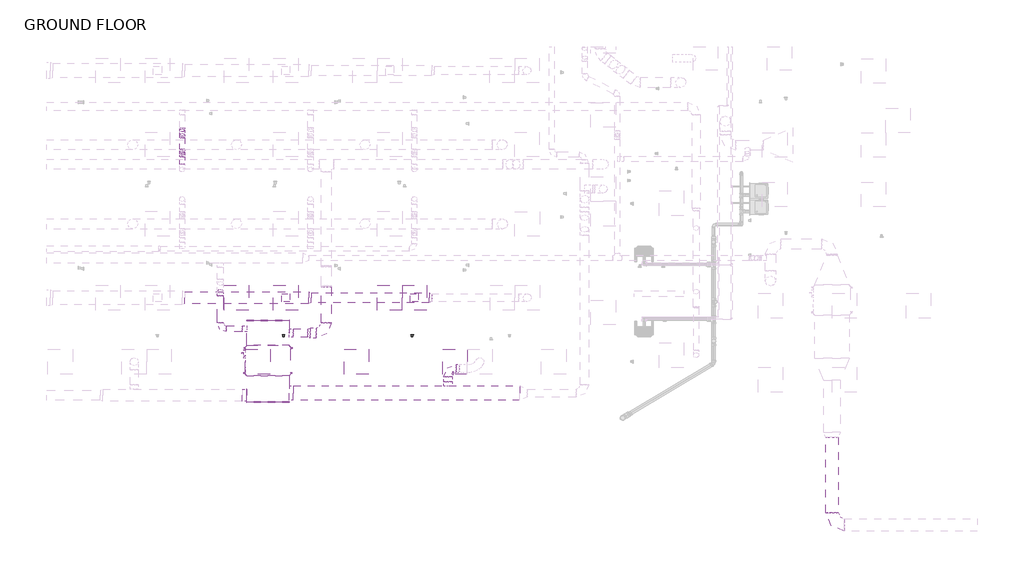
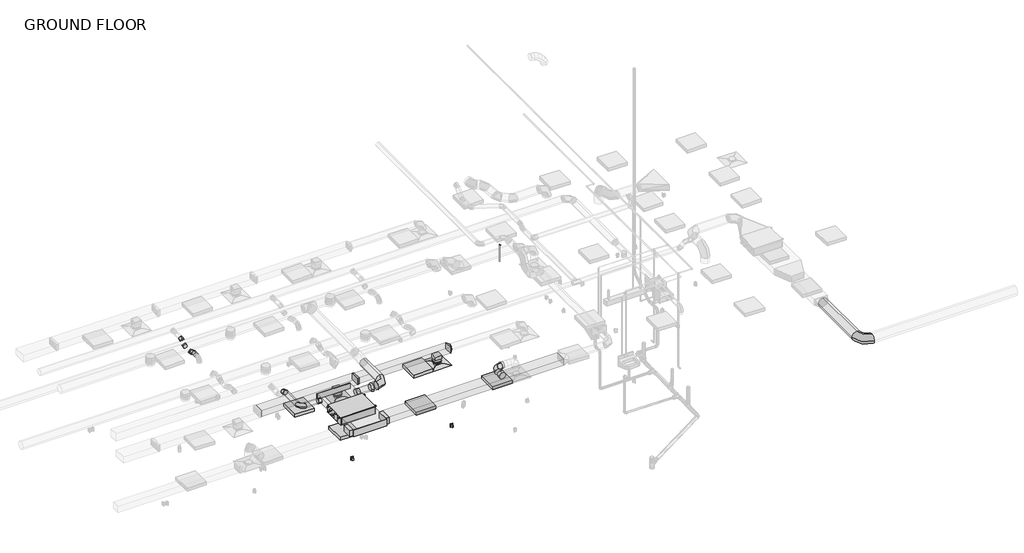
# One storey, part 4 of 21: 23 duct fittings, 19 duct segments, 5 light fixtures, 2 air terminals, 2 pipe segments, 2 switching devices, 1 pipe fitting, 1 proxy.
"""IFC4 building model written with IfcOpenShell, lengths in millimetres."""

from ifc_helpers import new_model, si_unit, point, frame, frame_2d, origin, place, context, project, spatial, polyline, circle_curve, trimmed, segment, composite_curve, outline, extrude, transform, mapped, element, save
from components import air_terminal_e9020785, mechanical_equipment_d42a0ae8, rectangular_endcap_standard_76476d20, rectangular_endcap_standard_db7dad01, rectangular_takeoff_standard_806da19c, rectangular_takeoff_standard_78a7ba75, rectangular_takeoff_standard_d07ea574, rectangular_transition_angle_45_degree_1d311e81, rectangular_to_round_transition_angle_45_degree_e9430680, rectangular_to_round_transition_angle_45_degree_5a025447, round_elbow_1_d_a253342a, round_elbow_1_d_b37ad80b, round_elbow_1_d_6fec3262, round_elbow_1_d_281bc45b, round_elbow_1_d_9a27e954, round_elbow_1_d_538d8ec8, round_takeoff_standard_d3b0d0f9, round_takeoff_standard_1127d77f, round_takeoff_standard_bb6ed057, round_transition_angle_45_degree_6c335ea7, troffer_corner_insert_2x2_3lamp_e67c7f8f, elbow_generic_standard_a088f956, duplex_receptacle_countertop_10251bba

model = new_model("IFC4")

# Units and contexts
model_context = context("Model", 3, world=origin())
ifc_project = project(units=[si_unit("LENGTHUNIT", "METRE", prefix="MILLI")], contexts=[model_context])

# Site, building, storey
site = spatial("IfcSite", under=ifc_project)
building = spatial("IfcBuilding", under=site)
storey = spatial("IfcBuildingStorey", under=building, Name="GROUND FLOOR", Elevation=30480.0)

# Air terminals
placement = place(None, origin())
air_terminal_shape = air_terminal_e9020785(model_context)
element("IfcAirTerminal", 1, ObjectType="Supply Diffuser - Rectangular Face Round Neck - Hosted : 24\"x24\" Face 8\" Neck - Hosted", at=placement, inside=storey, context=model_context, shape_type="MappedRepresentation", body=[
    mapped(air_terminal_shape, transform((2372.6795393, -4228.1054995, 33223.2), x_axis=(0.0, -1.0, 0.0), y_axis=(-1.0, 0.0, 0.0), z_axis=(0.0, 0.0, -1.0))),
])
element("IfcAirTerminal", 2, ObjectType="Supply Diffuser - Rectangular Face Round Neck - Hosted : 24\"x24\" Face 8\" Neck - Hosted", at=placement, inside=storey, context=model_context, shape_type="MappedRepresentation", body=[
    mapped(air_terminal_shape, transform((5547.6681472, -4228.1054995, 33223.2), x_axis=(0.0, -1.0, 0.0), y_axis=(-1.0, 0.0, 0.0), z_axis=(0.0, 0.0, -1.0))),
])

# Proxy
mechanical_equipment_shape = mechanical_equipment_d42a0ae8(model_context)
element("IfcBuildingElementProxy", 3, Name="PEFY-P-NMAU-E_Medium_Static_Ducted : PEFY-P30NMAU-E", ObjectType="PEFY-P-NMAU-E_Medium_Static_Ducted : PEFY-P30NMAU-E", at=placement, inside=storey, context=model_context, shape_type="MappedRepresentation", body=[
    mapped(mechanical_equipment_shape, transform((1920.9522105, -5724.0600038, 33731.2), x_axis=(-1.0, 0.0, 0.0), y_axis=(0.0, -1.0, 0.0), z_axis=(0.0, 0.0, 1.0))),
])

# Duct fittings
rectangular_endcap_standard_shape = rectangular_endcap_standard_76476d20(model_context)
element("IfcDuctFitting", 4, ObjectType="Rectangular Endcap : Standard", at=placement, inside=storey, context=model_context, shape_type="MappedRepresentation", body=[
    mapped(rectangular_endcap_standard_shape, transform((1930.9644534, -4796.9600038, 33890.74375), x_axis=(0.0, 1.0, 0.0), y_axis=(-1.0, 0.0, 0.0), z_axis=(0.0, 0.0, 1.0))),
])
rectangular_endcap_standard_2_shape = rectangular_endcap_standard_db7dad01(model_context)
element("IfcDuctFitting", 5, ObjectType="Rectangular Endcap : Standard", at=placement, inside=storey, context=model_context, shape_type="MappedRepresentation", body=[
    mapped(rectangular_endcap_standard_2_shape, transform((1930.9644534, -6797.459162, 33877.25), x_axis=(0.0, -1.0, 0.0), y_axis=(0.0, 0.0, -1.0000000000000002), z_axis=(1.0000000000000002, 0.0, 0.0))),
])
rectangular_takeoff_standard_shape = rectangular_takeoff_standard_806da19c(model_context)
element("IfcDuctFitting", 6, ObjectType="Rectangular Takeoff : Standard", at=placement, inside=storey, context=model_context, shape_type="MappedRepresentation", body=[
    mapped(rectangular_takeoff_standard_shape, transform((2458.8082034, -6584.4850038, 33877.25), x_axis=(1.0, 0.0, 0.0), y_axis=(0.0, -1.0, 0.0), z_axis=(0.0, 0.0, -1.0))),
])
rectangular_takeoff_standard_2_shape = rectangular_takeoff_standard_78a7ba75(model_context)
element("IfcDuctFitting", 7, ObjectType="Rectangular Takeoff : Standard", at=placement, inside=storey, context=model_context, shape_type="MappedRepresentation", body=[
    mapped(rectangular_takeoff_standard_2_shape, transform((1403.1207034, -6635.2850038, 33877.25), x_axis=(-1.0, 0.0, 0.0), y_axis=(0.0, 1.0, 0.0), z_axis=(0.0, 0.0, -1.0))),
])
rectangular_takeoff_standard_3_shape = rectangular_takeoff_standard_d07ea574(model_context)
element("IfcDuctFitting", 8, ObjectType="Rectangular Takeoff : Standard", at=placement, inside=storey, context=model_context, shape_type="MappedRepresentation", body=[
    mapped(rectangular_takeoff_standard_3_shape, transform((5547.6681472, -4228.1054995, 33502.6), x_axis=(0.0, 0.0, -1.0), y_axis=(1.0, 0.0, 0.0), z_axis=(0.0, -1.0, 0.0))),
])
element("IfcDuctFitting", 9, ObjectType="Rectangular Takeoff : Standard", at=placement, inside=storey, context=model_context, shape_type="MappedRepresentation", body=[
    mapped(rectangular_takeoff_standard_3_shape, transform((2372.6795393, -4228.1054995, 33502.6), x_axis=(0.0, 0.0, -1.0), y_axis=(1.0, 0.0, 0.0), z_axis=(0.0, -1.0, 0.0))),
])
rectangular_transition_angle_45_degree_shape = rectangular_transition_angle_45_degree_1d311e81(model_context)
element("IfcDuctFitting", 10, ObjectType="Rectangular Transition - Angle : 45 Degree", at=placement, inside=storey, context=model_context, shape_type="MappedRepresentation", body=[
    mapped(rectangular_transition_angle_45_degree_shape, transform((2934.6545393, -4228.1054995, 33604.2), x_axis=(1.0, 0.0, 0.0), y_axis=(0.0, 1.0, 0.0), z_axis=(0.0, 0.0, 1.0))),
])
rectangular_to_round_transition_angle_45_degree_shape = rectangular_to_round_transition_angle_45_degree_e9430680(model_context)
element("IfcDuctFitting", 11, ObjectType="Rectangular to Round Transition - Angle : 45 Degree", at=placement, inside=storey, context=model_context, shape_type="MappedRepresentation", body=[
    mapped(rectangular_to_round_transition_angle_45_degree_shape, transform((5910.8124903, -4228.1054995, 33604.2), x_axis=(1.0, 0.0, 0.0), y_axis=(0.0, 1.0, 0.0), z_axis=(0.0, 0.0, 1.0))),
])
rectangular_to_round_transition_angle_45_degree_2_shape = rectangular_to_round_transition_angle_45_degree_5a025447(model_context)
element("IfcDuctFitting", 12, ObjectType="Rectangular to Round Transition - Angle : 45 Degree", at=placement, inside=storey, context=model_context, shape_type="MappedRepresentation", body=[
    mapped(rectangular_to_round_transition_angle_45_degree_2_shape, transform((5547.6681472, -4228.1054995, 33327.975), x_axis=(0.0, 0.0, -1.0), y_axis=(1.0, 0.0, 0.0), z_axis=(0.0, -1.0, 0.0))),
])
element("IfcDuctFitting", 13, ObjectType="Rectangular to Round Transition - Angle : 45 Degree", at=placement, inside=storey, context=model_context, shape_type="MappedRepresentation", body=[
    mapped(rectangular_to_round_transition_angle_45_degree_2_shape, transform((2372.6795393, -4228.1054995, 33327.975), x_axis=(0.0, 0.0, -1.0), y_axis=(1.0, 0.0, 0.0), z_axis=(0.0, -1.0, 0.0))),
])
round_elbow_1_d_shape = round_elbow_1_d_a253342a(model_context)
element("IfcDuctFitting", 14, ObjectType="Round Elbow : 1 D", at=placement, inside=storey, context=model_context, shape_type="MappedRepresentation", body=[
    mapped(round_elbow_1_d_shape, transform((6377.6154749, -5974.8850038, 33832.8), x_axis=(-1.0, 0.0, 0.0), y_axis=(0.0, -1.0, 0.0), z_axis=(0.0, 0.0, 1.0))),
])
round_elbow_1_d_2_shape = round_elbow_1_d_b37ad80b(model_context)
element("IfcDuctFitting", 15, ObjectType="Round Elbow : 1 D", at=placement, inside=storey, context=model_context, shape_type="MappedRepresentation", body=[
    mapped(round_elbow_1_d_2_shape, transform((752.8182219, -4998.2216457, 33890.74375), x_axis=(0.0, -1.0, 0.0), y_axis=(1.0, 0.0, 0.0), z_axis=(0.0, 0.0, 1.0))),
])
round_elbow_1_d_3_shape = round_elbow_1_d_6fec3262(model_context)
element("IfcDuctFitting", 16, ObjectType="Round Elbow : 1 D", at=placement, inside=storey, context=model_context, shape_type="MappedRepresentation", body=[
    mapped(round_elbow_1_d_3_shape, transform((3373.2082034, -5101.7600038, 33846.29375), x_axis=(1.0, 0.0, 0.0), y_axis=(0.0, 1.0, 0.0), z_axis=(0.0, 0.0, 1.0))),
])
round_elbow_1_d_4_shape = round_elbow_1_d_281bc45b(model_context)
element("IfcDuctFitting", 17, ObjectType="Round Elbow : 1 D", at=placement, inside=storey, context=model_context, shape_type="MappedRepresentation", body=[
    mapped(round_elbow_1_d_4_shape, transform((15866.7105962, -9838.464426, 33750.25), x_axis=(0.0, -1.0, 0.0), y_axis=(1.0, 0.0, 0.0), z_axis=(0.0, 0.0, 1.0))),
])
round_elbow_1_d_5_shape = round_elbow_1_d_9a27e954(model_context)
element("IfcDuctFitting", 18, ObjectType="Round Elbow : 1 D", at=placement, inside=storey, context=model_context, shape_type="MappedRepresentation", body=[
    mapped(round_elbow_1_d_5_shape, transform((752.8182219, -4118.4511555, 33890.74375), x_axis=(0.0, -0.707106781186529, 0.707106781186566), y_axis=(0.0, -0.707106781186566, -0.707106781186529), z_axis=(1.0, 0.0, 0.0))),
])
round_elbow_1_d_6_shape = round_elbow_1_d_538d8ec8(model_context)
element("IfcDuctFitting", 19, ObjectType="Round Elbow : 1 D", at=placement, inside=storey, context=model_context, shape_type="MappedRepresentation", body=[
    mapped(round_elbow_1_d_6_shape, transform((-189.5454607, -703.4357216, 33477.2), x_axis=(0.0, 1.0, 0.0), y_axis=(0.0, 0.0, -1.0), z_axis=(-1.0, 0.0, 0.0))),
])
element("IfcDuctFitting", 20, ObjectType="Round Elbow : 1 D", at=placement, inside=storey, context=model_context, shape_type="MappedRepresentation", body=[
    mapped(round_elbow_1_d_6_shape, transform((-189.5454607, -599.403412, 33404.3557926), x_axis=(0.0, 0.8191520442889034, -0.5735764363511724), y_axis=(0.0, 0.5735764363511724, 0.8191520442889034), z_axis=(1.0, 0.0, 0.0))),
])
element("IfcDuctFitting", 21, ObjectType="Round Elbow : 1 D", at=placement, inside=storey, context=model_context, shape_type="MappedRepresentation", body=[
    mapped(round_elbow_1_d_6_shape, transform((-189.5454607, -240.3054995, 33404.3557926), x_axis=(0.0, 1.0, 0.0), y_axis=(0.0, 0.0, 1.0), z_axis=(1.0, 0.0, 0.0))),
])
element("IfcDuctFitting", 22, ObjectType="Round Elbow : 1 D", at=placement, inside=storey, context=model_context, shape_type="MappedRepresentation", body=[
    mapped(round_elbow_1_d_6_shape, transform((-189.5454607, -63.7232711, 33528.0), x_axis=(0.0, 0.8191520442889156, 0.5735764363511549), y_axis=(0.0, 0.5735764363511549, -0.8191520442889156), z_axis=(-1.0, 0.0, 0.0))),
])
round_takeoff_standard_shape = round_takeoff_standard_d3b0d0f9(model_context)
element("IfcDuctFitting", 23, ObjectType="Round Takeoff : Standard", at=placement, inside=storey, context=model_context, shape_type="MappedRepresentation", body=[
    mapped(round_takeoff_standard_shape, transform((2458.8082034, -5101.7600038, 33846.29375), x_axis=(1.0, 0.0, 0.0), y_axis=(0.0, -1.0, 0.0), z_axis=(0.0, 0.0, -1.0))),
])
round_takeoff_standard_2_shape = round_takeoff_standard_1127d77f(model_context)
element("IfcDuctFitting", 24, ObjectType="Round Takeoff : Standard", at=placement, inside=storey, context=model_context, shape_type="MappedRepresentation", body=[
    mapped(round_takeoff_standard_2_shape, transform((6377.6154749, -6406.6850038, 33832.8), x_axis=(0.0, 1.0, 0.0), y_axis=(1.0, 0.0, 0.0), z_axis=(0.0, 0.0, -1.0))),
])
round_takeoff_standard_3_shape = round_takeoff_standard_bb6ed057(model_context)
element("IfcDuctFitting", 25, ObjectType="Round Takeoff : Standard", at=placement, inside=storey, context=model_context, shape_type="MappedRepresentation", body=[
    mapped(round_takeoff_standard_3_shape, transform((1403.1207034, -4998.2216457, 33890.74375), x_axis=(-1.0, 0.0, 0.0), y_axis=(0.0, 1.0, 0.0), z_axis=(0.0, 0.0, -1.0))),
])
round_transition_angle_45_degree_shape = round_transition_angle_45_degree_6c335ea7(model_context)
element("IfcDuctFitting", 26, ObjectType="Round Transition - Angle : 45 Degree", at=placement, inside=storey, context=model_context, shape_type="MappedRepresentation", body=[
    mapped(round_transition_angle_45_degree_shape, transform((2916.0082034, -5101.7600038, 33846.29375), x_axis=(1.0, 0.0, 0.0), y_axis=(0.0, 1.0, 0.0), z_axis=(0.0, 0.0, 1.0))),
])

# Duct segments
element("IfcDuctSegment", 27, ObjectType="Mitered Elbows / Taps", at=placement, inside=storey, context=model_context, shape_type="SweptSolid", body=[
    extrude(outline(polyline([(8148.4082034, -6406.6850038), (8148.4082034, -6762.2850038), (2560.4082034, -6762.2850038), (2560.4082034, -6406.6850038), (8148.4082034, -6406.6850038)])), frame((0.0, 0.0, 33775.65), z_axis=(0.0, 0.0, 1.0), x_axis=(1.0, 0.0, 0.0)), (0.0, 0.0, 1.0), 203.2),
])
element("IfcDuctSegment", 28, ObjectType="Mitered Elbows / Taps", at=placement, inside=storey, context=model_context, shape_type="SweptSolid", body=[
    extrude(outline(polyline([(-128.2244362, -4380.5054995), (-128.2244362, -4075.7054995), (2934.6545393, -4075.7054995), (2934.6545393, -4380.5054995), (-128.2244362, -4380.5054995)])), frame((0.0, 0.0, 33502.6), z_axis=(0.0, 0.0, 1.0), x_axis=(1.0, 0.0, 0.0)), (0.0, 0.0, 1.0), 203.2),
])
element("IfcDuctSegment", 29, ObjectType="Mitered Elbows / Taps", at=placement, inside=storey, context=model_context, shape_type="SweptSolid", body=[
    extrude(outline(polyline([(2995.9755638, -4355.1054995), (2995.9755638, -4101.1054995), (5910.8124903, -4101.1054995), (5910.8124903, -4355.1054995), (2995.9755638, -4355.1054995)])), frame((0.0, 0.0, 33502.6), z_axis=(0.0, 0.0, 1.0), x_axis=(1.0, 0.0, 0.0)), (0.0, 0.0, 1.0), 203.2),
])
element("IfcDuctSegment", 30, ObjectType="Mitered Elbows / Taps", at=placement, inside=storey, context=model_context, shape_type="SweptSolid", body=[
    extrude(outline(polyline([(5649.2681472, -4329.7054995), (5446.0681472, -4329.7054995), (5446.0681472, -4126.5054995), (5649.2681472, -4126.5054995), (5649.2681472, -4329.7054995)])), frame((0.0, 0.0, 33327.975), z_axis=(0.0, 0.0, 1.0), x_axis=(1.0, 0.0, 0.0)), (0.0, 0.0, 1.0), 73.025),
])
element("IfcDuctSegment", 31, ObjectType="Mitered Elbows / Taps", at=placement, inside=storey, context=model_context, shape_type="SweptSolid", body=[
    extrude(outline(polyline([(2271.0795393, -4126.5054995), (2474.2795393, -4126.5054995), (2474.2795393, -4329.7054995), (2271.0795393, -4329.7054995), (2271.0795393, -4126.5054995)])), frame((0.0, 0.0, 33327.975), z_axis=(0.0, 0.0, 1.0), x_axis=(1.0, 0.0, 0.0)), (0.0, 0.0, 1.0), 73.025),
])
element("IfcDuctSegment", 32, ObjectType="Mitered Elbows / Tees", at=placement, inside=storey, context=model_context, shape_type="SweptSolid", body=[
    extrude(outline(polyline([(2458.8082034, -5406.5600038), (1403.1207034, -5406.5600038), (1403.1207034, -4796.9600038), (2458.8082034, -4796.9600038), (2458.8082034, -5406.5600038)])), frame((0.0, 0.0, 33801.05), z_axis=(0.0, 0.0, 1.0), x_axis=(1.0, 0.0, 0.0)), (0.0, 0.0, 1.0), 179.3875),
])
element("IfcDuctSegment", 33, ObjectType="Mitered Elbows / Tees", at=placement, inside=storey, context=model_context, shape_type="SweptSolid", body=[
    extrude(outline(polyline([(1403.1207034, -6152.6850038), (2458.8082034, -6152.6850038), (2458.8082034, -6797.459162), (1403.1207034, -6797.459162), (1403.1207034, -6152.6850038)])), frame((0.0, 0.0, 33774.0625), z_axis=(0.0, 0.0, 1.0), x_axis=(1.0, 0.0, 0.0)), (0.0, 0.0, 1.0), 206.375),
])
element("IfcDuctSegment", 34, ObjectType="Taps / Short Radius", at=placement, inside=storey, context=model_context, shape_type="SweptSolid", body=[
    extrude(outline(composite_curve([segment(trimmed(circle_curve(frame_2d((33832.8, 6377.6154749)), 101.6), [point((33832.8, 6479.2154749))], [point((33934.4, 6377.6154749))], False, "CARTESIAN"), True, "CONTINUOUS"), segment(trimmed(circle_curve(frame_2d((33832.8, 6377.6154749)), 101.6), [point((33934.4, 6377.6154749))], [point((33832.8, 6276.0154749))], False, "CARTESIAN"), True, "CONTINUOUS"), segment(trimmed(circle_curve(frame_2d((33832.8, 6377.6154749)), 101.6), [point((33832.8, 6276.0154749))], [point((33731.2, 6377.6154749))], False, "CARTESIAN"), True, "CONTINUOUS"), segment(trimmed(circle_curve(frame_2d((33832.8, 6377.6154749)), 101.6), [point((33731.2, 6377.6154749))], [point((33832.8, 6479.2154749))], False, "CARTESIAN"), True, "CONTINUOUS")], self_intersect=False)), frame((0.0, -6305.0850038, 0.0), z_axis=(0.0, 1.0, 0.0), x_axis=(0.0, 0.0, 1.0)), (0.0, 0.0, 1.0), 127.0),
])
element("IfcDuctSegment", 35, ObjectType="Taps / Short Radius", at=placement, inside=storey, context=model_context, shape_type="SweptSolid", body=[
    extrude(outline(composite_curve([segment(trimmed(circle_curve(frame_2d((-5974.8850038, 33832.8)), 101.6), [point((-6076.4850038, 33832.8))], [point((-5974.8850038, 33934.4))], False, "CARTESIAN"), True, "CONTINUOUS"), segment(trimmed(circle_curve(frame_2d((-5974.8850038, 33832.8)), 101.6), [point((-5974.8850038, 33934.4))], [point((-5873.2850038, 33832.8))], False, "CARTESIAN"), True, "CONTINUOUS"), segment(trimmed(circle_curve(frame_2d((-5974.8850038, 33832.8)), 101.6), [point((-5873.2850038, 33832.8))], [point((-5974.8850038, 33731.2))], False, "CARTESIAN"), True, "CONTINUOUS"), segment(trimmed(circle_curve(frame_2d((-5974.8850038, 33832.8)), 101.6), [point((-5974.8850038, 33731.2))], [point((-6076.4850038, 33832.8))], False, "CARTESIAN"), True, "CONTINUOUS")], self_intersect=False)), frame((6580.8154749, 0.0, 0.0), z_axis=(1.0, 0.0, 0.0), x_axis=(0.0, 1.0, 0.0)), (0.0, 0.0, 1.0), 76.2),
])
element("IfcDuctSegment", 36, ObjectType="Taps / Short Radius", at=placement, inside=storey, context=model_context, shape_type="SweptSolid", body=[
    extrude(outline(composite_curve([segment(trimmed(circle_curve(frame_2d((33750.25, 15866.7105962)), 152.4), [point((33750.25, 15714.3105962))], [point((33597.85, 15866.7105962))], False, "CARTESIAN"), True, "CONTINUOUS"), segment(trimmed(circle_curve(frame_2d((33750.25, 15866.7105962)), 152.4), [point((33597.85, 15866.7105962))], [point((33750.25, 16019.1105962))], False, "CARTESIAN"), True, "CONTINUOUS"), segment(trimmed(circle_curve(frame_2d((33750.25, 15866.7105962)), 152.4), [point((33750.25, 16019.1105962))], [point((33902.65, 15866.7105962))], False, "CARTESIAN"), True, "CONTINUOUS"), segment(trimmed(circle_curve(frame_2d((33750.25, 15866.7105962)), 152.4), [point((33902.65, 15866.7105962))], [point((33750.25, 15714.3105962))], False, "CARTESIAN"), True, "CONTINUOUS")], self_intersect=False)), frame((0.0, -9533.664426, 0.0), z_axis=(0.0, 1.0, 0.0), x_axis=(0.0, 0.0, 1.0)), (0.0, 0.0, 1.0), 1858.557951),
])
element("IfcDuctSegment", 37, ObjectType="Taps / Short Radius", at=placement, inside=storey, context=model_context, shape_type="SweptSolid", body=[
    extrude(outline(composite_curve([segment(trimmed(circle_curve(frame_2d((-5101.7600038, 33846.29375)), 101.6), [point((-5203.3600038, 33846.29375))], [point((-5101.7600038, 33947.89375))], False, "CARTESIAN"), True, "CONTINUOUS"), segment(trimmed(circle_curve(frame_2d((-5101.7600038, 33846.29375)), 101.6), [point((-5101.7600038, 33947.89375))], [point((-5000.1600038, 33846.29375))], False, "CARTESIAN"), True, "CONTINUOUS"), segment(trimmed(circle_curve(frame_2d((-5101.7600038, 33846.29375)), 101.6), [point((-5000.1600038, 33846.29375))], [point((-5101.7600038, 33744.69375))], False, "CARTESIAN"), True, "CONTINUOUS"), segment(trimmed(circle_curve(frame_2d((-5101.7600038, 33846.29375)), 101.6), [point((-5101.7600038, 33744.69375))], [point((-5203.3600038, 33846.29375))], False, "CARTESIAN"), True, "CONTINUOUS")], self_intersect=False)), frame((2560.4082034, 0.0, 0.0), z_axis=(1.0, 0.0, 0.0), x_axis=(0.0, 1.0, 0.0)), (0.0, 0.0, 1.0), 355.6),
])
element("IfcDuctSegment", 38, ObjectType="Taps / Short Radius", at=placement, inside=storey, context=model_context, shape_type="SweptSolid", body=[
    extrude(outline(composite_curve([segment(trimmed(circle_curve(frame_2d((-5101.7600038, 33846.29375)), 127.0), [point((-5228.7600038, 33846.29375))], [point((-5101.7600038, 33973.29375))], False, "CARTESIAN"), True, "CONTINUOUS"), segment(trimmed(circle_curve(frame_2d((-5101.7600038, 33846.29375)), 127.0), [point((-5101.7600038, 33973.29375))], [point((-4974.7600038, 33846.29375))], False, "CARTESIAN"), True, "CONTINUOUS"), segment(trimmed(circle_curve(frame_2d((-5101.7600038, 33846.29375)), 127.0), [point((-4974.7600038, 33846.29375))], [point((-5101.7600038, 33719.29375))], False, "CARTESIAN"), True, "CONTINUOUS"), segment(trimmed(circle_curve(frame_2d((-5101.7600038, 33846.29375)), 127.0), [point((-5101.7600038, 33719.29375))], [point((-5228.7600038, 33846.29375))], False, "CARTESIAN"), True, "CONTINUOUS")], self_intersect=False)), frame((2977.3292279, 0.0, 0.0), z_axis=(1.0, 0.0, 0.0), x_axis=(0.0, 1.0, 0.0)), (0.0, 0.0, 1.0), 141.8789755),
])
element("IfcDuctSegment", 39, ObjectType="Taps / Short Radius", at=placement, inside=storey, context=model_context, shape_type="SweptSolid", body=[
    extrude(outline(composite_curve([segment(trimmed(circle_curve(frame_2d((33846.29375, 3373.2082034)), 127.0), [point((33846.29375, 3500.2082034))], [point((33973.29375, 3373.2082034))], False, "CARTESIAN"), True, "CONTINUOUS"), segment(trimmed(circle_curve(frame_2d((33846.29375, 3373.2082034)), 127.0), [point((33973.29375, 3373.2082034))], [point((33846.29375, 3246.2082034))], False, "CARTESIAN"), True, "CONTINUOUS"), segment(trimmed(circle_curve(frame_2d((33846.29375, 3373.2082034)), 127.0), [point((33846.29375, 3246.2082034))], [point((33719.29375, 3373.2082034))], False, "CARTESIAN"), True, "CONTINUOUS"), segment(trimmed(circle_curve(frame_2d((33846.29375, 3373.2082034)), 127.0), [point((33719.29375, 3373.2082034))], [point((33846.29375, 3500.2082034))], False, "CARTESIAN"), True, "CONTINUOUS")], self_intersect=False)), frame((0.0, -4847.7600038, 0.0), z_axis=(0.0, 1.0, 0.0), x_axis=(0.0, 0.0, 1.0)), (0.0, 0.0, 1.0), 894.6785339),
])
element("IfcDuctSegment", 40, ObjectType="Taps / Short Radius", at=placement, inside=storey, context=model_context, shape_type="SweptSolid", body=[
    extrude(outline(composite_curve([segment(trimmed(circle_curve(frame_2d((33890.74375, 752.8182219)), 76.2), [point((33890.74375, 676.6182219))], [point((33814.54375, 752.8182219))], False, "CARTESIAN"), True, "CONTINUOUS"), segment(trimmed(circle_curve(frame_2d((33890.74375, 752.8182219)), 76.2), [point((33814.54375, 752.8182219))], [point((33890.74375, 829.0182219))], False, "CARTESIAN"), True, "CONTINUOUS"), segment(trimmed(circle_curve(frame_2d((33890.74375, 752.8182219)), 76.2), [point((33890.74375, 829.0182219))], [point((33966.94375, 752.8182219))], False, "CARTESIAN"), True, "CONTINUOUS"), segment(trimmed(circle_curve(frame_2d((33890.74375, 752.8182219)), 76.2), [point((33966.94375, 752.8182219))], [point((33890.74375, 676.6182219))], False, "CARTESIAN"), True, "CONTINUOUS")], self_intersect=False)), frame((0.0, -4845.8216457, 0.0), z_axis=(0.0, 1.0, 0.0), x_axis=(0.0, 0.0, 1.0)), (0.0, 0.0, 1.0), 664.2443434),
])
element("IfcDuctSegment", 41, ObjectType="Taps / Short Radius", at=placement, inside=storey, context=model_context, shape_type="SweptSolid", body=[
    extrude(outline(composite_curve([segment(trimmed(circle_curve(frame_2d((-4998.2216457, 33890.74375)), 76.2), [point((-4922.0216457, 33890.74375))], [point((-4998.2216457, 33814.54375))], False, "CARTESIAN"), True, "CONTINUOUS"), segment(trimmed(circle_curve(frame_2d((-4998.2216457, 33890.74375)), 76.2), [point((-4998.2216457, 33814.54375))], [point((-5074.4216457, 33890.74375))], False, "CARTESIAN"), True, "CONTINUOUS"), segment(trimmed(circle_curve(frame_2d((-4998.2216457, 33890.74375)), 76.2), [point((-5074.4216457, 33890.74375))], [point((-4998.2216457, 33966.94375))], False, "CARTESIAN"), True, "CONTINUOUS"), segment(trimmed(circle_curve(frame_2d((-4998.2216457, 33890.74375)), 76.2), [point((-4998.2216457, 33966.94375))], [point((-4922.0216457, 33890.74375))], False, "CARTESIAN"), True, "CONTINUOUS")], self_intersect=False)), frame((905.2182219, 0.0, 0.0), z_axis=(1.0, 0.0, 0.0), x_axis=(0.0, 1.0, 0.0)), (0.0, 0.0, 1.0), 396.3024816),
])
element("IfcDuctSegment", 42, ObjectType="Taps / Short Radius", at=placement, inside=storey, context=model_context, shape_type="SweptSolid", body=[
    extrude(outline(composite_curve([segment(trimmed(circle_curve(frame_2d((33477.2, -189.5454607)), 63.5), [point((33477.2, -126.0454607))], [point((33540.7, -189.5454607))], False, "CARTESIAN"), True, "CONTINUOUS"), segment(trimmed(circle_curve(frame_2d((33477.2, -189.5454607)), 63.5), [point((33540.7, -189.5454607))], [point((33477.2, -253.0454607))], False, "CARTESIAN"), True, "CONTINUOUS"), segment(trimmed(circle_curve(frame_2d((33477.2, -189.5454607)), 63.5), [point((33477.2, -253.0454607))], [point((33413.7, -189.5454607))], False, "CARTESIAN"), True, "CONTINUOUS"), segment(trimmed(circle_curve(frame_2d((33477.2, -189.5454607)), 63.5), [point((33413.7, -189.5454607))], [point((33477.2, -126.0454607))], False, "CARTESIAN"), True, "CONTINUOUS")], self_intersect=False)), frame((0.0, -929.2804995, 0.0), z_axis=(0.0, 1.0, 0.0), x_axis=(0.0, 0.0, 1.0)), (0.0, 0.0, 1.0), 185.8018317),
])
element("IfcDuctSegment", 43, ObjectType="Taps / Short Radius", at=placement, inside=storey, context=model_context, shape_type="SweptSolid", body=[
    extrude(outline(composite_curve([segment(trimmed(circle_curve(frame_2d((0.0, -63.5)), 63.5), [point((63.5, -63.5))], [point((0.0, -127.0000001))], False, "CARTESIAN"), True, "CONTINUOUS"), segment(trimmed(circle_curve(frame_2d((0.0, -63.5)), 63.5), [point((0.0, -127.0000001))], [point((-63.5, -63.5))], False, "CARTESIAN"), True, "CONTINUOUS"), segment(trimmed(circle_curve(frame_2d((0.0, -63.5)), 63.5), [point((-63.5, -63.5))], [point((0.0, 0.0))], False, "CARTESIAN"), True, "CONTINUOUS"), segment(trimmed(circle_curve(frame_2d((0.0, -63.5)), 63.5), [point((0.0, 0.0))], [point((63.5, -63.5))], False, "CARTESIAN"), True, "CONTINUOUS")], self_intersect=False)), frame((-189.5454607, -595.7825695, 33479.3396378), z_axis=(0.0, -0.8191520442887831, 0.5735764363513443), x_axis=(1.0, 0.0, 0.0)), (0.0, 0.0, 1.0), 46.9141076),
])
element("IfcDuctSegment", 44, ObjectType="Taps / Short Radius", at=placement, inside=storey, context=model_context, shape_type="SweptSolid", body=[
    extrude(outline(composite_curve([segment(trimmed(circle_curve(frame_2d((33404.3557926, -189.5454607)), 63.5), [point((33404.3557926, -126.0454607))], [point((33467.8557926, -189.5454607))], False, "CARTESIAN"), True, "CONTINUOUS"), segment(trimmed(circle_curve(frame_2d((33404.3557926, -189.5454607)), 63.5), [point((33467.8557926, -189.5454607))], [point((33404.3557926, -253.0454607))], False, "CARTESIAN"), True, "CONTINUOUS"), segment(trimmed(circle_curve(frame_2d((33404.3557926, -189.5454607)), 63.5), [point((33404.3557926, -253.0454607))], [point((33340.8557926, -189.5454607))], False, "CARTESIAN"), True, "CONTINUOUS"), segment(trimmed(circle_curve(frame_2d((33404.3557926, -189.5454607)), 63.5), [point((33340.8557926, -189.5454607))], [point((33404.3557926, -126.0454607))], False, "CARTESIAN"), True, "CONTINUOUS")], self_intersect=False)), frame((0.0, -559.3604658, 0.0), z_axis=(0.0, 1.0, 0.0), x_axis=(0.0, 0.0, 1.0)), (0.0, 0.0, 1.0), 279.0120202),
])
element("IfcDuctSegment", 45, ObjectType="Taps / Short Radius", at=placement, inside=storey, context=model_context, shape_type="SweptSolid", body=[
    extrude(outline(composite_curve([segment(trimmed(circle_curve(frame_2d((0.0, 63.5)), 63.5), [point((63.5, 63.5))], [point((0.0, 0.0))], False, "CARTESIAN"), True, "CONTINUOUS"), segment(trimmed(circle_curve(frame_2d((0.0, 63.5)), 63.5), [point((0.0, 0.0))], [point((-63.5, 63.5))], False, "CARTESIAN"), True, "CONTINUOUS"), segment(trimmed(circle_curve(frame_2d((0.0, 63.5)), 63.5), [point((-63.5, 63.5))], [point((0.0, 127.0000001))], False, "CARTESIAN"), True, "CONTINUOUS"), segment(trimmed(circle_curve(frame_2d((0.0, 63.5)), 63.5), [point((0.0, 127.0000001))], [point((63.5, 63.5))], False, "CARTESIAN"), True, "CONTINUOUS")], self_intersect=False)), frame((-189.5454607, -243.926342, 33479.3396378), z_axis=(0.0, 0.8191520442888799, 0.5735764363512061), x_axis=(1.0, 0.0, 0.0)), (0.0, 0.0, 1.0), 135.4812048),
])

# Light fixtures
troffer_corner_insert_2x2_3lamp_shape = troffer_corner_insert_2x2_3lamp_e67c7f8f(model_context)
element("IfcLightFixture", 46, ObjectType="Troffer Corner Insert : 2x2 3Lamp", at=placement, inside=storey, context=model_context, shape_type="MappedRepresentation", body=[
    mapped(troffer_corner_insert_2x2_3lamp_shape, transform((1153.4795393, -4228.1054995, 30784.8), x_axis=(1.0, 0.0, 0.0), y_axis=(0.0, 1.0, 0.0), z_axis=(0.0, 0.0, 1.0))),
])
element("IfcLightFixture", 47, ObjectType="Troffer Corner Insert : 2x2 3Lamp", at=placement, inside=storey, context=model_context, shape_type="MappedRepresentation", body=[
    mapped(troffer_corner_insert_2x2_3lamp_shape, transform((4938.0681472, -4228.1054995, 30784.8), x_axis=(1.0, 0.0, 0.0), y_axis=(0.0, 1.0, 0.0), z_axis=(0.0, 0.0, 1.0))),
])
element("IfcLightFixture", 48, ObjectType="Troffer Corner Insert : 2x2 3Lamp", at=placement, inside=storey, context=model_context, shape_type="MappedRepresentation", body=[
    mapped(troffer_corner_insert_2x2_3lamp_shape, transform((6554.1545393, -5809.2554995, 30784.8), x_axis=(1.0, 0.0, 0.0), y_axis=(0.0, 1.0, 0.0), z_axis=(0.0, 0.0, 1.0))),
])
element("IfcLightFixture", 49, ObjectType="Troffer Corner Insert : 2x2 3Lamp", at=placement, inside=storey, context=model_context, shape_type="MappedRepresentation", body=[
    mapped(troffer_corner_insert_2x2_3lamp_shape, transform((4115.7545393, -5809.2554995, 30784.8), x_axis=(1.0, 0.0, 0.0), y_axis=(0.0, 1.0, 0.0), z_axis=(0.0, 0.0, 1.0))),
])
element("IfcLightFixture", 50, ObjectType="Troffer Corner Insert : 2x2 3Lamp", at=placement, inside=storey, context=model_context, shape_type="MappedRepresentation", body=[
    mapped(troffer_corner_insert_2x2_3lamp_shape, transform((1677.3545393, -5809.2554995, 30784.8), x_axis=(1.0, 0.0, 0.0), y_axis=(0.0, 1.0, 0.0), z_axis=(0.0, 0.0, 1.0))),
])

# Pipe fitting
elbow_generic_standard_shape = elbow_generic_standard_a088f956(model_context)
element("IfcPipeFitting", 51, ObjectType="Elbow - Generic : Standard", at=placement, inside=storey, context=model_context, shape_type="MappedRepresentation", body=[
    mapped(elbow_generic_standard_shape, transform((6497.3220393, -6058.4929995, 37998.4), x_axis=(0.0, 0.0, 1.0), y_axis=(0.0, -1.0, 0.0), z_axis=(1.0, 0.0, 0.0))),
])

# Pipe segments
element("IfcPipeSegment", 52, ObjectType="Copper", at=placement, inside=storey, context=model_context, shape_type="SweptSolid", body=[
    extrude(outline(composite_curve([segment(trimmed(circle_curve(frame_2d((37998.4, 6497.3220393)), 7.9375), [point((37998.4, 6505.2595393))], [point((38006.3375, 6497.3220393))], False, "CARTESIAN"), True, "CONTINUOUS"), segment(trimmed(circle_curve(frame_2d((37998.4, 6497.3220393)), 7.9375), [point((38006.3375, 6497.3220393))], [point((37998.4, 6489.3845393))], False, "CARTESIAN"), True, "CONTINUOUS"), segment(trimmed(circle_curve(frame_2d((37998.4, 6497.3220393)), 7.9375), [point((37998.4, 6489.3845393))], [point((37990.4625, 6497.3220393))], False, "CARTESIAN"), True, "CONTINUOUS"), segment(trimmed(circle_curve(frame_2d((37998.4, 6497.3220393)), 7.9375), [point((37990.4625, 6497.3220393))], [point((37998.4, 6505.2595393))], False, "CARTESIAN"), True, "CONTINUOUS")], self_intersect=False)), frame((0.0, -6120.4054995, 0.0), z_axis=(0.0, 1.0, 0.0), x_axis=(0.0, 0.0, 1.0)), (0.0, 0.0, 1.0), 47.625),
])
element("IfcPipeSegment", 53, ObjectType="Copper", at=placement, inside=storey, context=model_context, shape_type="SweptSolid", body=[
    extrude(outline(composite_curve([segment(trimmed(circle_curve(frame_2d((6497.3220393, -6058.4929995)), 7.9375), [point((6489.3845393, -6058.4929995))], [point((6497.3220393, -6050.5554995))], False, "CARTESIAN"), True, "CONTINUOUS"), segment(trimmed(circle_curve(frame_2d((6497.3220393, -6058.4929995)), 7.9375), [point((6497.3220393, -6050.5554995))], [point((6505.2595393, -6058.4929995))], False, "CARTESIAN"), True, "CONTINUOUS"), segment(trimmed(circle_curve(frame_2d((6497.3220393, -6058.4929995)), 7.9375), [point((6505.2595393, -6058.4929995))], [point((6497.3220393, -6066.4304995))], False, "CARTESIAN"), True, "CONTINUOUS"), segment(trimmed(circle_curve(frame_2d((6497.3220393, -6058.4929995)), 7.9375), [point((6497.3220393, -6066.4304995))], [point((6489.3845393, -6058.4929995))], False, "CARTESIAN"), True, "CONTINUOUS")], self_intersect=False)), frame((0.0, 0.0, 37422.1375102), z_axis=(0.0, 0.0, 1.0), x_axis=(1.0, 0.0, 0.0)), (0.0, 0.0, 1.0), 561.9749898),
])

# Switching devices
duplex_receptacle_countertop_shape = duplex_receptacle_countertop_10251bba(model_context)
element("IfcSwitchingDevice", 54, ObjectType="Lighting Switches : Single Pole", at=placement, inside=storey, context=model_context, shape_type="MappedRepresentation", body=[
    mapped(duplex_receptacle_countertop_shape, transform((5493.5296811, -5142.5054995, 31699.2), x_axis=(-1.0, 0.0, 0.0), y_axis=(0.0, 0.0, 1.0), z_axis=(0.0, 1.0, 0.0))),
])
element("IfcSwitchingDevice", 55, ObjectType="Lighting Switches : Single Pole", at=placement, inside=storey, context=model_context, shape_type="MappedRepresentation", body=[
    mapped(duplex_receptacle_countertop_shape, transform((2316.5516148, -5142.5054995, 31699.2), x_axis=(-1.0, 0.0, 0.0), y_axis=(0.0, 0.0, 1.0), z_axis=(0.0, 1.0, 0.0))),
])

save(model, "model.ifc")
